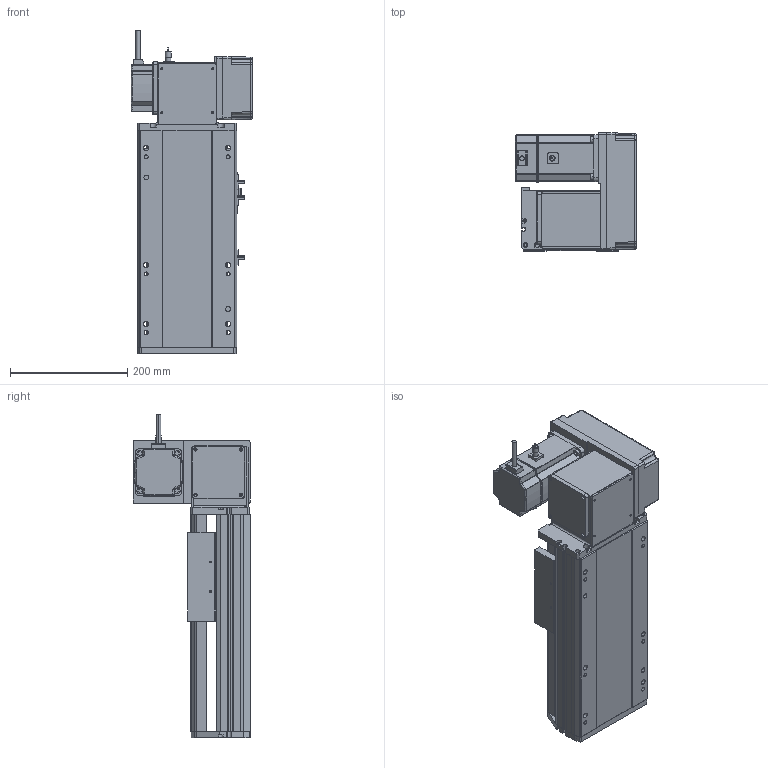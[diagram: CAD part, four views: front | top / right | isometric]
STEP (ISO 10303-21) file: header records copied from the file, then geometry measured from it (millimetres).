
FILE_DESCRIPTION (( 'STEP AP214' ), '1' );
FILE_NAME ('RTB17S-XX-100-RW-M75-C4.STEP', '2025-12-12T02:30:08', ( '' ), ( '' ), 'SwSTEP 2.0', 'SolidWorks 2018', '' );
FILE_SCHEMA (( 'AUTOMOTIVE_DESIGN' ));
Length unit declared in the file: millimetre
Products named in the file (15): RTB17S-L-004-賑釱^RTB17S-賑釱_RTB17S-XX-XX-RW-M75-C4; RTB17S-RW-々湍釱蚾饜-750W^RTB17S-XX-XX-RW-M75-C4; RTB17S-L-007奻裔^RTB17S-XX-XX-RW-M75-C4; EE672^RTB17S-XX-XX-RW-M75-C4; RTB22S-GY-017P^RTB17S-RW-々湍釱蚾饜-750W_RTB17S-XX-XX-RW-M75-C4; RTB22S-GY-005P^RTB17S-RW-々湍釱蚾饜-750W_RTB17S-XX-XX-RW-M75-C4; RTB22S-GY-018P^RTB17S-RW-々湍釱蚾饜-750W_RTB17S-XX-XX-RW-M75-C4; RTB17S-賑釱^RTB17S-XX-XX-RW-M75-C4; 750W萇儂^RTB17S-XX-XX-RW-M75-C4; RTB17-R-011菁釱^RTB17S-XX-XX-RW-M75-C4; RTB17S-L-001-耜醱啣^RTB17S-XX-XX-RW-M75-C4; RMP17S-L-014-T20-P75--々湍釱^RTB17S-RW-々湍釱蚾饜-750W_RTB17S-XX-XX-RW-M75-C4; RTB17S-XX-100-RW-M75-C4; RTB22S-GY-008-M75--萇儂啣^RTB17S-RW-々湍釱蚾饜-750W_RTB17S-XX-XX-RW-M75-C4; RTH13-BL-012覜茼え俋离^RTB17S-賑釱_RTB17S-XX-XX-RW-M75-C4
Assembly tree (17 placements, depth 3):
  RTB17S-XX-100-RW-M75-C4
    RTB17-R-011菁釱^RTB17S-XX-XX-RW-M75-C4
    EE672^RTB17S-XX-XX-RW-M75-C4  x3
    RTB17S-L-001-耜醱啣^RTB17S-XX-XX-RW-M75-C4
    RTB17S-賑釱^RTB17S-XX-XX-RW-M75-C4
      RTB17S-L-004-賑釱^RTB17S-賑釱_RTB17S-XX-XX-RW-M75-C4
      RTH13-BL-012覜茼え俋离^RTB17S-賑釱_RTB17S-XX-XX-RW-M75-C4
    RTB17S-L-007奻裔^RTB17S-XX-XX-RW-M75-C4
    750W萇儂^RTB17S-XX-XX-RW-M75-C4
    RTB17S-RW-々湍釱蚾饜-750W^RTB17S-XX-XX-RW-M75-C4
      RMP17S-L-014-T20-P75--々湍釱^RTB17S-RW-々湍釱蚾饜-750W_RTB17S-XX-XX-RW-M75-C4
      RTB22S-GY-005P^RTB17S-RW-々湍釱蚾饜-750W_RTB17S-XX-XX-RW-M75-C4
      RTB22S-GY-017P^RTB17S-RW-々湍釱蚾饜-750W_RTB17S-XX-XX-RW-M75-C4  x2
      RTB22S-GY-008-M75--萇儂啣^RTB17S-RW-々湍釱蚾饜-750W_RTB17S-XX-XX-RW-M75-C4
      RTB22S-GY-018P^RTB17S-RW-々湍釱蚾饜-750W_RTB17S-XX-XX-RW-M75-C4
Bounding box: 207.4 x 201.5 x 552.2 mm (x, y, z)
Volume: 6572475 mm3; surface area: 966322.1 mm2
Topology: 17 solids, 17 shells, 2025 faces, 5566 edges, 3590 vertices
Faces by surface type: plane 962, cylinder 647, bspline 294, cone 110, sphere 8, torus 4
Entity records: 55030 total; most frequent: CARTESIAN_POINT 16030, ORIENTED_EDGE 7976, DIRECTION 7502, EDGE_CURVE 3988, AXIS2_PLACEMENT_3D 2610, VERTEX_POINT 2594, VECTOR 2282, LINE 2282
